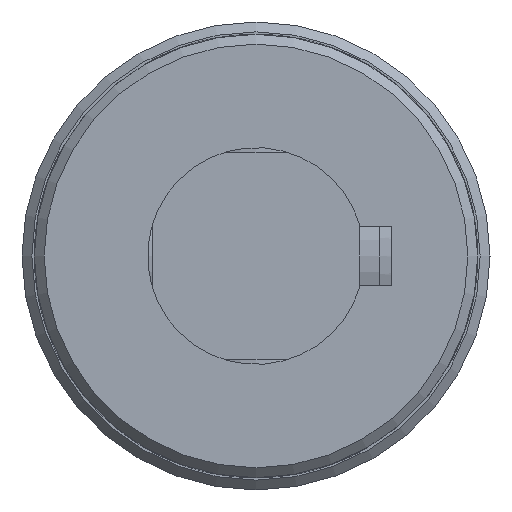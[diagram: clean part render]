
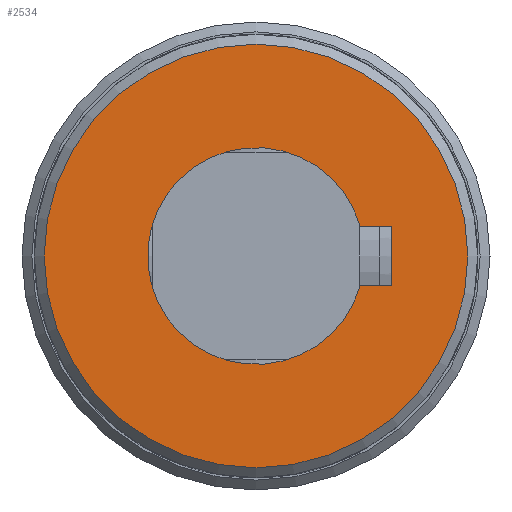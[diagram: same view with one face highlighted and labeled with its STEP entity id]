
A CAD part, left-side view. The second image highlights one B-rep face of the part: STEP entity #2534.
In plain terms, the highlighted planar face has unit normal (-1, 0, 0) as drawn and (0, -1, 0) by its records, which use the part's own axes.
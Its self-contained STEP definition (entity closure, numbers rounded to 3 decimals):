
#75=FACE_BOUND('',#414,.T.);
#250=FACE_OUTER_BOUND('',#413,.T.);
#413=EDGE_LOOP('',(#1763));
#414=EDGE_LOOP('',(#1764,#1765,#1766,#1767));
#640=CIRCLE('',#2693,11.);
#646=CIRCLE('',#2704,21.5);
#770=LINE('',#3748,#923);
#774=LINE('',#3771,#927);
#776=LINE('',#3779,#929);
#923=VECTOR('',#2995,3.217);
#927=VECTOR('',#3007,6.);
#929=VECTOR('',#3011,3.217);
#1077=VERTEX_POINT('',#3745);
#1078=VERTEX_POINT('',#3747);
#1081=VERTEX_POINT('',#3757);
#1083=VERTEX_POINT('',#3769);
#1092=VERTEX_POINT('',#3858);
#1345=EDGE_CURVE('',#1078,#1077,#770,.T.);
#1349=EDGE_CURVE('',#1081,#1078,#640,.T.);
#1353=EDGE_CURVE('',#1077,#1083,#774,.T.);
#1356=EDGE_CURVE('',#1083,#1081,#776,.T.);
#1366=EDGE_CURVE('',#1092,#1092,#646,.T.);
#1763=ORIENTED_EDGE('',*,*,#1366,.F.);
#1764=ORIENTED_EDGE('',*,*,#1345,.T.);
#1765=ORIENTED_EDGE('',*,*,#1353,.T.);
#1766=ORIENTED_EDGE('',*,*,#1356,.T.);
#1767=ORIENTED_EDGE('',*,*,#1349,.T.);
#2449=PLANE('',#2706);
#2534=ADVANCED_FACE('',(#250,#75),#2449,.F.);
#2693=AXIS2_PLACEMENT_3D('',#3758,#3001,#3002);
#2704=AXIS2_PLACEMENT_3D('',#3859,#3028,#3029);
#2706=AXIS2_PLACEMENT_3D('',#4043,#3036,#3037);
#2995=DIRECTION('',(0.,0.,-1.));
#3001=DIRECTION('center_axis',(0.,1.,0.));
#3002=DIRECTION('ref_axis',(-0.273,0.,0.962));
#3007=DIRECTION('',(-1.,0.,0.));
#3011=DIRECTION('',(0.,0.,1.));
#3028=DIRECTION('center_axis',(0.,1.,0.));
#3029=DIRECTION('ref_axis',(1.,0.,0.));
#3036=DIRECTION('center_axis',(0.,1.,0.));
#3037=DIRECTION('ref_axis',(0.,0.,1.));
#3745=CARTESIAN_POINT('',(3.,-58.,-13.8));
#3747=CARTESIAN_POINT('',(3.,-58.,-10.583));
#3748=CARTESIAN_POINT('',(3.,-58.,-5.292));
#3757=CARTESIAN_POINT('',(-3.,-58.,-10.583));
#3758=CARTESIAN_POINT('Origin',(0.,-58.,0.));
#3769=CARTESIAN_POINT('',(-3.,-58.,-13.8));
#3771=CARTESIAN_POINT('',(1.5,-58.,-13.8));
#3779=CARTESIAN_POINT('',(-3.,-58.,-6.9));
#3858=CARTESIAN_POINT('',(-21.5,-58.,0.));
#3859=CARTESIAN_POINT('Origin',(0.,-58.,0.));
#4043=CARTESIAN_POINT('Origin',(0.,-58.,0.));
